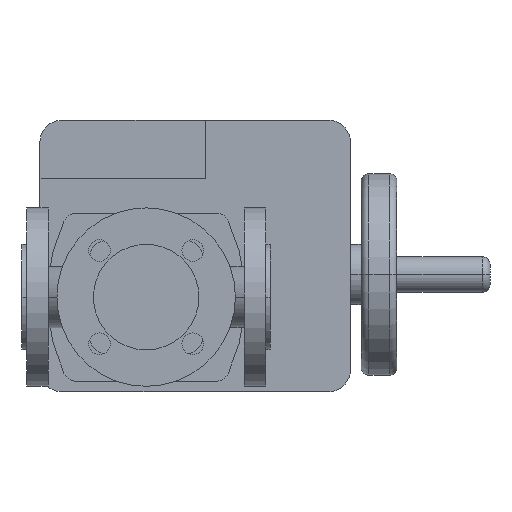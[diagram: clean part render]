
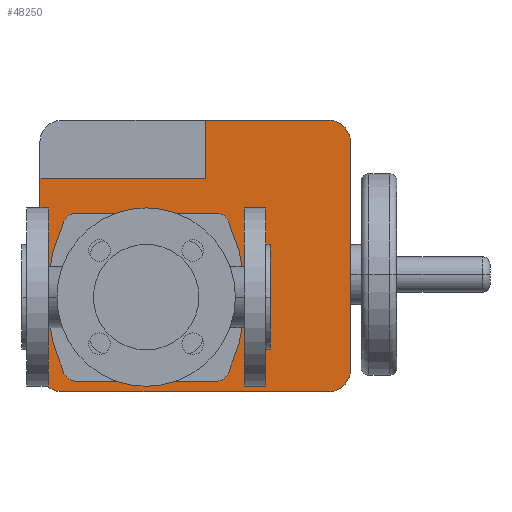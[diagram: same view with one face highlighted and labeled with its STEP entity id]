
A CAD part, front view. The second image highlights one B-rep face of the part: STEP entity #48250.
In plain terms, the highlighted planar face has unit normal (0, -1, 0).
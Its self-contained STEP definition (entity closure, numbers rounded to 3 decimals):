
#40310=CARTESIAN_POINT('',(11.6,384.,-47.));
#40320=DIRECTION('',(0.,0.,1.));
#40330=VECTOR('',#40320,1.);
#40340=LINE('',#40310,#40330);
#40350=CARTESIAN_POINT('',(11.6,384.,-47.));
#40360=VERTEX_POINT('',#40350);
#40370=CARTESIAN_POINT('',(11.6,384.,76.5));
#40380=VERTEX_POINT('',#40370);
#40390=EDGE_CURVE('',#40360,#40380,#40340,.T.);
#44100=CARTESIAN_POINT('',(197.6,384.,-61.));
#44110=VERTEX_POINT('',#44100);
#44140=CARTESIAN_POINT('',(197.6,384.,-47.));
#44150=DIRECTION('',(0.,1.,0.));
#44160=DIRECTION('',(1.,0.,0.));
#44170=AXIS2_PLACEMENT_3D('',#44140,#44150,#44160);
#44180=CIRCLE('',#44170,14.);
#44190=CARTESIAN_POINT('',(211.6,384.,-47.));
#44200=VERTEX_POINT('',#44190);
#44210=EDGE_CURVE('',#44200,#44110,#44180,.T.);
#46900=CARTESIAN_POINT('',(80.,384.,0.));
#46910=DIRECTION('',(0.,1.,0.));
#46920=DIRECTION('',(0.,0.,1.));
#46930=AXIS2_PLACEMENT_3D('',#46900,#46910,#46920);
#46940=PLANE('',#46930);
#46950=CARTESIAN_POINT('',(132.2,384.,0.));
#46960=DIRECTION('',(0.,1.,0.));
#46970=DIRECTION('',(-0.906,0.,-0.422));
#46980=AXIS2_PLACEMENT_3D('',#46950,#46960,#46970);
#46990=CIRCLE('',#46980,116.);
#47000=CARTESIAN_POINT('',(27.058,384.,-49.002));
#47010=VERTEX_POINT('',#47000);
#47020=CARTESIAN_POINT('',(27.058,384.,49.002));
#47030=VERTEX_POINT('',#47020);
#47040=EDGE_CURVE('',#47010,#47030,#46990,.T.);
#47050=ORIENTED_EDGE('',*,*,#47040,.T.);
#47060=CARTESIAN_POINT('',(35.216,384.,-45.2));
#47070=DIRECTION('',(0.,1.,0.));
#47080=DIRECTION('',(0.,0.,-1.));
#47090=AXIS2_PLACEMENT_3D('',#47060,#47070,#47080);
#47100=CIRCLE('',#47090,9.);
#47110=CARTESIAN_POINT('',(35.216,384.,-54.2));
#47120=VERTEX_POINT('',#47110);
#47130=EDGE_CURVE('',#47120,#47010,#47100,.T.);
#47140=ORIENTED_EDGE('',*,*,#47130,.T.);
#47150=CARTESIAN_POINT('',(102.392,384.,-54.2));
#47160=DIRECTION('',(-1.,0.,0.));
#47170=VECTOR('',#47160,1.);
#47180=LINE('',#47150,#47170);
#47190=CARTESIAN_POINT('',(124.784,384.,-54.2));
#47200=VERTEX_POINT('',#47190);
#47210=EDGE_CURVE('',#47200,#47120,#47180,.T.);
#47220=ORIENTED_EDGE('',*,*,#47210,.T.);
#47230=CARTESIAN_POINT('',(124.784,384.,-45.2));
#47240=DIRECTION('',(0.,1.,0.));
#47250=DIRECTION('',(0.906,0.,-0.422));
#47260=AXIS2_PLACEMENT_3D('',#47230,#47240,#47250);
#47270=CIRCLE('',#47260,9.);
#47280=CARTESIAN_POINT('',(132.942,384.,-49.002));
#47290=VERTEX_POINT('',#47280);
#47300=EDGE_CURVE('',#47290,#47200,#47270,.T.);
#47310=ORIENTED_EDGE('',*,*,#47300,.T.);
#47320=CARTESIAN_POINT('',(27.8,384.,0.))
;
#47330=DIRECTION('',(0.,1.,0.));
#47340=DIRECTION('',(0.906,0.,0.422));
#47350=AXIS2_PLACEMENT_3D('',#47320,#47330,#47340);
#47360=CIRCLE('',#47350,116.);
#47370=CARTESIAN_POINT('',(132.942,384.,49.002));
#47380=VERTEX_POINT('',#47370);
#47390=EDGE_CURVE('',#47380,#47290,#47360,.T.);
#47400=ORIENTED_EDGE('',*,*,#47390,.T.);
#47410=CARTESIAN_POINT('',(124.784,384.,45.2));
#47420=DIRECTION('',(0.,1.,0.));
#47430=DIRECTION('',(0.,0.,1.));
#47440=AXIS2_PLACEMENT_3D('',#47410,#47420,#47430);
#47450=CIRCLE('',#47440,9.);
#47460=CARTESIAN_POINT('',(124.784,384.,54.2));
#47470=VERTEX_POINT('',#47460);
#47480=EDGE_CURVE('',#47470,#47380,#47450,.T.);
#47490=ORIENTED_EDGE('',*,*,#47480,.T.);
#47500=CARTESIAN_POINT('',(57.608,384.,54.2));
#47510=DIRECTION('',(1.,0.,0.));
#47520=VECTOR('',#47510,1.);
#47530=LINE('',#47500,#47520);
#47540=CARTESIAN_POINT('',(35.216,384.,54.2));
#47550=VERTEX_POINT('',#47540);
#47560=EDGE_CURVE('',#47550,#47470,#47530,.T.);
#47570=ORIENTED_EDGE('',*,*,#47560,.T.);
#47580=CARTESIAN_POINT('',(35.216,384.,45.2));
#47590=DIRECTION('',(0.,1.,0.));
#47600=DIRECTION('',(-0.906,0.,0.422));
#47610=AXIS2_PLACEMENT_3D('',#47580,#47590,#47600);
#47620=CIRCLE('',#47610,9.);
#47630=EDGE_CURVE('',#47030,#47550,#47620,.T.);
#47640=ORIENTED_EDGE('',*,*,#47630,.T.);
#47650=EDGE_LOOP('',(#47640,#47570,#47490,#47400,#47310,#47220,#47140,
#47050));
#47660=FACE_BOUND('',#47650,.T.);
#47670=CARTESIAN_POINT('',(118.1,384.,38.25));
#47680=DIRECTION('',(0.,0.,-1.));
#47690=VECTOR('',#47680,1.);
#47700=LINE('',#47670,#47690);
#47710=CARTESIAN_POINT('',(118.1,384.,114.));
#47720=VERTEX_POINT('',#47710);
#47730=CARTESIAN_POINT('',(118.1,384.,76.5));
#47740=VERTEX_POINT('',#47730);
#47750=EDGE_CURVE('',#47720,#47740,#47700,.T.);
#47760=ORIENTED_EDGE('',*,*,#47750,.T.);
#47770=CARTESIAN_POINT('',(25.6,384.,114.));
#47780=DIRECTION('',(1.,0.,0.));
#47790=VECTOR('',#47780,1.);
#47800=LINE('',#47770,#47790);
#47810=CARTESIAN_POINT('',(197.6,384.,114.));
#47820=VERTEX_POINT('',#47810);
#47830=EDGE_CURVE('',#47720,#47820,#47800,.T.);
#47840=ORIENTED_EDGE('',*,*,#47830,.F.);
#47850=CARTESIAN_POINT('',(197.6,384.,100.));
#47860=DIRECTION('',(0.,1.,0.));
#47870=DIRECTION('',(0.,0.,1.));
#47880=AXIS2_PLACEMENT_3D('',#47850,#47860,#47870);
#47890=CIRCLE('',#47880,14.);
#47900=CARTESIAN_POINT('',(211.6,384.,100.));
#47910=VERTEX_POINT('',#47900);
#47920=EDGE_CURVE('',#47820,#47910,#47890,.T.);
#47930=ORIENTED_EDGE('',*,*,#47920,.F.);
#47940=CARTESIAN_POINT('',(211.6,384.,100.));
#47950=DIRECTION('',(0.,0.,-1.));
#47960=VECTOR('',#47950,1.);
#47970=LINE('',#47940,#47960);
#47980=EDGE_CURVE('',#47910,#44200,#47970,.T.);
#47990=ORIENTED_EDGE('',*,*,#47980,.F.);
#48000=ORIENTED_EDGE('',*,*,#44210,.F.);
#48010=CARTESIAN_POINT('',(197.6,384.,-61.));
#48020=DIRECTION('',(-1.,0.,0.));
#48030=VECTOR('',#48020,1.);
#48040=LINE('',#48010,#48030);
#48050=CARTESIAN_POINT('',(25.6,384.,-61.));
#48060=VERTEX_POINT('',#48050);
#48070=EDGE_CURVE('',#44110,#48060,#48040,.T.);
#48080=ORIENTED_EDGE('',*,*,#48070,.F.);
#48090=CARTESIAN_POINT('',(25.6,384.,-47.));
#48100=DIRECTION('',(0.,1.,0.));
#48110=DIRECTION('',(0.,0.,-1.));
#48120=AXIS2_PLACEMENT_3D('',#48090,#48100,#48110);
#48130=CIRCLE('',#48120,14.);
#48140=EDGE_CURVE('',#48060,#40360,#48130,.T.);
#48150=ORIENTED_EDGE('',*,*,#48140,.F.);
#48160=ORIENTED_EDGE('',*,*,#40390,.F.);
#48170=CARTESIAN_POINT('',(45.3,384.,76.5));
#48180=DIRECTION('',(-1.,0.,0.));
#48190=VECTOR('',#48180,1.);
#48200=LINE('',#48170,#48190);
#48210=EDGE_CURVE('',#47740,#40380,#48200,.T.);
#48220=ORIENTED_EDGE('',*,*,#48210,.T.);
#48230=EDGE_LOOP('',(#48220,#48160,#48150,#48080,#48000,#47990,#47930,
#47840,#47760));
#48240=FACE_OUTER_BOUND('',#48230,.T.);
#48250=ADVANCED_FACE('',(#47660,#48240),#46940,.F.);
